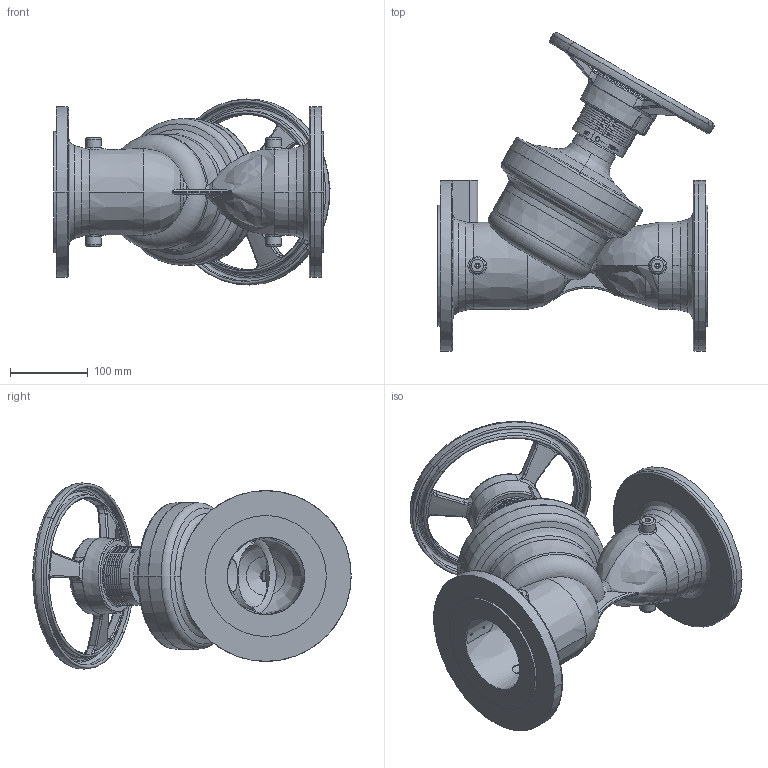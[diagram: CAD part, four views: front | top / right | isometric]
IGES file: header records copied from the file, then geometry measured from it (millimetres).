
Global section: file name: No Iges File Name specified; native system: AutoDesk Inventor R12.0; preprocessor: AutoDesk Inventor Iges Exporter R12.0; date: 20110225.141818; units: millimetre
Bounding box: 355.9 x 410.31 x 239.95 mm (x, y, z)
Volume: 3487065.2 mm3; surface area: 675207.8 mm2
Topology: 1 solids, 1 shells, 995 faces, 2637 edges, 1685 vertices
Faces by surface type: plane 341, bspline 314, revolution 127, cylinder 111, torus 57, cone 45
